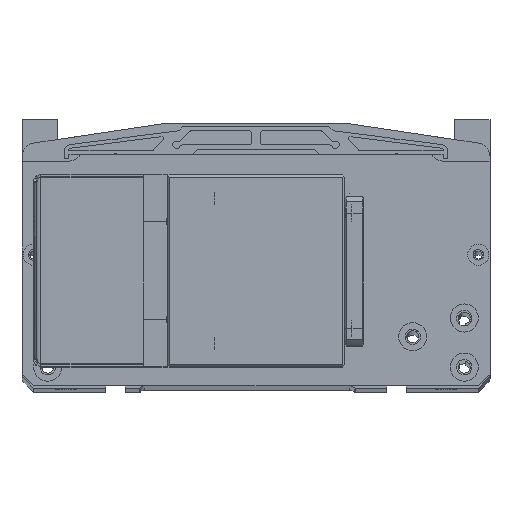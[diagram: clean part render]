
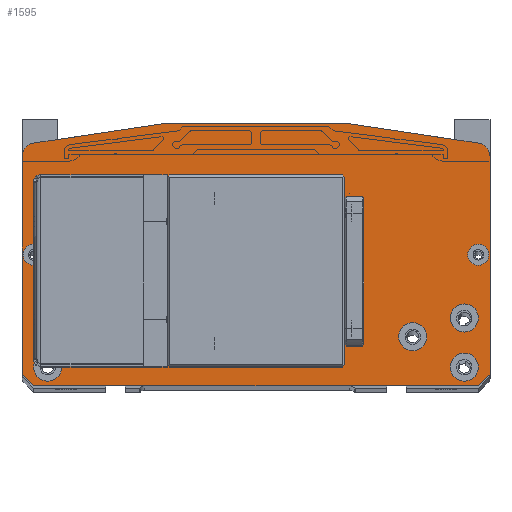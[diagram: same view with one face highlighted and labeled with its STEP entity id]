
A CAD part, top view. The second image highlights one B-rep face of the part: STEP entity #1595.
In plain terms, the highlighted planar face has unit normal (0, 0, 1).
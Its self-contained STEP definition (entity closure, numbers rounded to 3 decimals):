
#1595=ADVANCED_FACE('',(#5962,#5963,#5964,#5965,#5966,#5967,#5968,#5969,
#5970,#5971,#5972,#5973,#5974),#2609,.F.);
#2609=PLANE('',#18369);
#3078=LINE('',#25504,#4520);
#3079=LINE('',#25507,#4521);
#3080=LINE('',#25509,#4522);
#3081=LINE('',#25511,#4523);
#3082=LINE('',#25515,#4524);
#3083=LINE('',#25517,#4525);
#3084=LINE('',#25519,#4526);
#3085=LINE('',#25523,#4527);
#3086=LINE('',#25524,#4528);
#3087=LINE('',#25527,#4529);
#3088=LINE('',#25529,#4530);
#3089=LINE('',#25531,#4531);
#3090=LINE('',#25532,#4532);
#3091=LINE('',#25535,#4533);
#3092=LINE('',#25537,#4534);
#3093=LINE('',#25539,#4535);
#4520=VECTOR('',#20273,1.);
#4521=VECTOR('',#20274,1.);
#4522=VECTOR('',#20275,1.);
#4523=VECTOR('',#20276,1.);
#4524=VECTOR('',#20279,1.);
#4525=VECTOR('',#20280,1.);
#4526=VECTOR('',#20281,1.);
#4527=VECTOR('',#20284,1.);
#4528=VECTOR('',#20285,1.);
#4529=VECTOR('',#20286,1.);
#4530=VECTOR('',#20287,1.);
#4531=VECTOR('',#20288,1.);
#4532=VECTOR('',#20289,1.);
#4533=VECTOR('',#20290,1.);
#4534=VECTOR('',#20291,1.);
#4535=VECTOR('',#20292,1.);
#5962=FACE_BOUND('',#6668,.T.);
#5963=FACE_BOUND('',#6669,.T.);
#5964=FACE_BOUND('',#6670,.T.);
#5965=FACE_BOUND('',#6671,.T.);
#5966=FACE_BOUND('',#6672,.T.);
#5967=FACE_BOUND('',#6673,.T.);
#5968=FACE_BOUND('',#6674,.T.);
#5969=FACE_BOUND('',#6675,.T.);
#5970=FACE_BOUND('',#6676,.T.);
#5971=FACE_BOUND('',#6677,.T.);
#5972=FACE_BOUND('',#6678,.T.);
#5973=FACE_BOUND('',#6679,.T.);
#5974=FACE_BOUND('',#6680,.T.);
#6668=EDGE_LOOP('',(#8070));
#6669=EDGE_LOOP('',(#8071));
#6670=EDGE_LOOP('',(#8072));
#6671=EDGE_LOOP('',(#8073));
#6672=EDGE_LOOP('',(#8074));
#6673=EDGE_LOOP('',(#8075));
#6674=EDGE_LOOP('',(#8076));
#6675=EDGE_LOOP('',(#8077));
#6676=EDGE_LOOP('',(#8078));
#6677=EDGE_LOOP('',(#8079));
#6678=EDGE_LOOP('',(#8080,#8081,#8082,#8083,#8084,#8085,#8086,#8087,#8088,
#8089));
#6679=EDGE_LOOP('',(#8090,#8091,#8092,#8093));
#6680=EDGE_LOOP('',(#8094,#8095,#8096,#8097));
#8070=ORIENTED_EDGE('',*,*,#14924,.T.);
#8071=ORIENTED_EDGE('',*,*,#14925,.T.);
#8072=ORIENTED_EDGE('',*,*,#14926,.T.);
#8073=ORIENTED_EDGE('',*,*,#14927,.T.);
#8074=ORIENTED_EDGE('',*,*,#14928,.T.);
#8075=ORIENTED_EDGE('',*,*,#14929,.T.);
#8076=ORIENTED_EDGE('',*,*,#14930,.T.);
#8077=ORIENTED_EDGE('',*,*,#14931,.T.);
#8078=ORIENTED_EDGE('',*,*,#14932,.T.);
#8079=ORIENTED_EDGE('',*,*,#14933,.T.);
#8080=ORIENTED_EDGE('',*,*,#14934,.F.);
#8081=ORIENTED_EDGE('',*,*,#14935,.T.);
#8082=ORIENTED_EDGE('',*,*,#14936,.F.);
#8083=ORIENTED_EDGE('',*,*,#14937,.T.);
#8084=ORIENTED_EDGE('',*,*,#14938,.F.);
#8085=ORIENTED_EDGE('',*,*,#14939,.F.);
#8086=ORIENTED_EDGE('',*,*,#14940,.T.);
#8087=ORIENTED_EDGE('',*,*,#14941,.F.);
#8088=ORIENTED_EDGE('',*,*,#14942,.F.);
#8089=ORIENTED_EDGE('',*,*,#14943,.T.);
#8090=ORIENTED_EDGE('',*,*,#14944,.T.);
#8091=ORIENTED_EDGE('',*,*,#14945,.T.);
#8092=ORIENTED_EDGE('',*,*,#14946,.T.);
#8093=ORIENTED_EDGE('',*,*,#14947,.T.);
#8094=ORIENTED_EDGE('',*,*,#14948,.F.);
#8095=ORIENTED_EDGE('',*,*,#14949,.F.);
#8096=ORIENTED_EDGE('',*,*,#14950,.T.);
#8097=ORIENTED_EDGE('',*,*,#14951,.T.);
#13170=VERTEX_POINT('',#25485);
#13171=VERTEX_POINT('',#25487);
#13172=VERTEX_POINT('',#25489);
#13173=VERTEX_POINT('',#25491);
#13174=VERTEX_POINT('',#25493);
#13175=VERTEX_POINT('',#25495);
#13176=VERTEX_POINT('',#25497);
#13177=VERTEX_POINT('',#25499);
#13178=VERTEX_POINT('',#25501);
#13179=VERTEX_POINT('',#25503);
#13180=VERTEX_POINT('',#25505);
#13181=VERTEX_POINT('',#25506);
#13182=VERTEX_POINT('',#25508);
#13183=VERTEX_POINT('',#25510);
#13184=VERTEX_POINT('',#25512);
#13185=VERTEX_POINT('',#25514);
#13186=VERTEX_POINT('',#25516);
#13187=VERTEX_POINT('',#25518);
#13188=VERTEX_POINT('',#25520);
#13189=VERTEX_POINT('',#25522);
#13190=VERTEX_POINT('',#25525);
#13191=VERTEX_POINT('',#25526);
#13192=VERTEX_POINT('',#25528);
#13193=VERTEX_POINT('',#25530);
#13194=VERTEX_POINT('',#25533);
#13195=VERTEX_POINT('',#25534);
#13196=VERTEX_POINT('',#25536);
#13197=VERTEX_POINT('',#25538);
#14924=EDGE_CURVE('',#13170,#13170,#17474,.T.);
#14925=EDGE_CURVE('',#13171,#13171,#17475,.T.);
#14926=EDGE_CURVE('',#13172,#13172,#17476,.T.);
#14927=EDGE_CURVE('',#13173,#13173,#17477,.T.);
#14928=EDGE_CURVE('',#13174,#13174,#17478,.T.);
#14929=EDGE_CURVE('',#13175,#13175,#17479,.T.);
#14930=EDGE_CURVE('',#13176,#13176,#17480,.T.);
#14931=EDGE_CURVE('',#13177,#13177,#17481,.T.);
#14932=EDGE_CURVE('',#13178,#13178,#17482,.T.);
#14933=EDGE_CURVE('',#13179,#13179,#17483,.T.);
#14934=EDGE_CURVE('',#13180,#13181,#3078,.T.);
#14935=EDGE_CURVE('',#13180,#13182,#3079,.T.);
#14936=EDGE_CURVE('',#13183,#13182,#3080,.T.);
#14937=EDGE_CURVE('',#13183,#13184,#3081,.T.);
#14938=EDGE_CURVE('',#13185,#13184,#17484,.T.);
#14939=EDGE_CURVE('',#13186,#13185,#3082,.T.);
#14940=EDGE_CURVE('',#13186,#13187,#3083,.T.);
#14941=EDGE_CURVE('',#13188,#13187,#3084,.T.);
#14942=EDGE_CURVE('',#13189,#13188,#17485,.T.);
#14943=EDGE_CURVE('',#13189,#13181,#3085,.T.);
#14944=EDGE_CURVE('',#13190,#13191,#3086,.T.);
#14945=EDGE_CURVE('',#13191,#13192,#3087,.T.);
#14946=EDGE_CURVE('',#13192,#13193,#3088,.T.);
#14947=EDGE_CURVE('',#13193,#13190,#3089,.T.);
#14948=EDGE_CURVE('',#13194,#13195,#3090,.T.);
#14949=EDGE_CURVE('',#13196,#13194,#3091,.T.);
#14950=EDGE_CURVE('',#13196,#13197,#3092,.T.);
#14951=EDGE_CURVE('',#13197,#13195,#3093,.T.);
#17474=CIRCLE('',#18357,1.65);
#17475=CIRCLE('',#18358,1.65);
#17476=CIRCLE('',#18359,4.5);
#17477=CIRCLE('',#18360,4.5);
#17478=CIRCLE('',#18361,6.);
#17479=CIRCLE('',#18362,6.);
#17480=CIRCLE('',#18363,6.);
#17481=CIRCLE('',#18364,6.);
#17482=CIRCLE('',#18365,6.);
#17483=CIRCLE('',#18366,6.);
#17484=CIRCLE('',#18367,6.);
#17485=CIRCLE('',#18368,6.);
#18357=AXIS2_PLACEMENT_3D('',#25484,#20253,#20254);
#18358=AXIS2_PLACEMENT_3D('',#25486,#20255,#20256);
#18359=AXIS2_PLACEMENT_3D('',#25488,#20257,#20258);
#18360=AXIS2_PLACEMENT_3D('',#25490,#20259,#20260);
#18361=AXIS2_PLACEMENT_3D('',#25492,#20261,#20262);
#18362=AXIS2_PLACEMENT_3D('',#25494,#20263,#20264);
#18363=AXIS2_PLACEMENT_3D('',#25496,#20265,#20266);
#18364=AXIS2_PLACEMENT_3D('',#25498,#20267,#20268);
#18365=AXIS2_PLACEMENT_3D('',#25500,#20269,#20270);
#18366=AXIS2_PLACEMENT_3D('',#25502,#20271,#20272);
#18367=AXIS2_PLACEMENT_3D('',#25513,#20277,#20278);
#18368=AXIS2_PLACEMENT_3D('',#25521,#20282,#20283);
#18369=AXIS2_PLACEMENT_3D('',#25540,#20293,#20294);
#20253=DIRECTION('',(0.,0.,-1.));
#20254=DIRECTION('',(1.,0.,0.));
#20255=DIRECTION('',(0.,0.,-1.));
#20256=DIRECTION('',(1.,0.,0.));
#20257=DIRECTION('',(0.,0.,-1.));
#20258=DIRECTION('',(1.,0.,0.));
#20259=DIRECTION('',(0.,0.,-1.));
#20260=DIRECTION('',(1.,0.,0.));
#20261=DIRECTION('',(0.,0.,-1.));
#20262=DIRECTION('',(1.,0.,0.));
#20263=DIRECTION('',(0.,0.,-1.));
#20264=DIRECTION('',(1.,0.,0.));
#20265=DIRECTION('',(0.,0.,-1.));
#20266=DIRECTION('',(1.,0.,0.));
#20267=DIRECTION('',(0.,0.,-1.));
#20268=DIRECTION('',(1.,0.,0.));
#20269=DIRECTION('',(0.,0.,-1.));
#20270=DIRECTION('',(1.,0.,0.));
#20271=DIRECTION('',(0.,0.,-1.));
#20272=DIRECTION('',(1.,0.,0.));
#20273=DIRECTION('',(-0.707,0.707,0.));
#20274=DIRECTION('',(1.,0.,0.));
#20275=DIRECTION('',(-0.707,-0.707,0.));
#20276=DIRECTION('',(0.,1.,0.));
#20277=DIRECTION('',(0.,0.,-1.));
#20278=DIRECTION('',(0.148,0.989,0.));
#20279=DIRECTION('',(0.989,-0.148,0.));
#20280=DIRECTION('',(-1.,0.,0.));
#20281=DIRECTION('',(0.989,0.148,0.));
#20282=DIRECTION('',(0.,0.,-1.));
#20283=DIRECTION('',(-1.,0.,0.));
#20284=DIRECTION('',(0.,-1.,0.));
#20285=DIRECTION('',(0.,1.,0.));
#20286=DIRECTION('',(1.,0.,0.));
#20287=DIRECTION('',(0.,-1.,0.));
#20288=DIRECTION('',(-1.,0.,0.));
#20289=DIRECTION('',(0.,1.,0.));
#20290=DIRECTION('',(1.,0.,0.));
#20291=DIRECTION('',(0.,1.,0.));
#20292=DIRECTION('',(1.,0.,0.));
#20293=DIRECTION('',(0.,0.,-1.));
#20294=DIRECTION('',(-1.,0.,0.));
#25484=CARTESIAN_POINT('',(-42.,33.,463.));
#25485=CARTESIAN_POINT('',(-40.35,33.,463.));
#25486=CARTESIAN_POINT('',(-42.,69.,463.));
#25487=CARTESIAN_POINT('',(-40.35,69.,463.));
#25488=CARTESIAN_POINT('',(-95.,58.,463.));
#25489=CARTESIAN_POINT('',(-90.5,58.,463.));
#25490=CARTESIAN_POINT('',(95.,58.,463.));
#25491=CARTESIAN_POINT('',(99.5,58.,463.));
#25492=CARTESIAN_POINT('',(-67.,23.,463.));
#25493=CARTESIAN_POINT('',(-61.,23.,463.));
#25494=CARTESIAN_POINT('',(67.,23.,463.));
#25495=CARTESIAN_POINT('',(73.,23.,463.));
#25496=CARTESIAN_POINT('',(-89.,31.,463.));
#25497=CARTESIAN_POINT('',(-83.,31.,463.));
#25498=CARTESIAN_POINT('',(89.,31.,463.));
#25499=CARTESIAN_POINT('',(95.,31.,463.));
#25500=CARTESIAN_POINT('',(-89.,10.,463.));
#25501=CARTESIAN_POINT('',(-83.,10.,463.));
#25502=CARTESIAN_POINT('',(89.,10.,463.));
#25503=CARTESIAN_POINT('',(95.,10.,463.));
#25504=CARTESIAN_POINT('',(-95.,2.,463.));
#25505=CARTESIAN_POINT('',(-95.,2.,463.));
#25506=CARTESIAN_POINT('',(-100.,7.,463.));
#25507=CARTESIAN_POINT('',(67.5,2.,463.));
#25508=CARTESIAN_POINT('',(95.,2.,463.));
#25509=CARTESIAN_POINT('',(100.,7.,463.));
#25510=CARTESIAN_POINT('',(100.,7.,463.));
#25511=CARTESIAN_POINT('',(100.,7.,463.));
#25512=CARTESIAN_POINT('',(100.,99.833,463.));
#25513=CARTESIAN_POINT('',(94.,99.833,463.));
#25514=CARTESIAN_POINT('',(94.89,105.766,463.));
#25515=CARTESIAN_POINT('',(40.,114.,463.));
#25516=CARTESIAN_POINT('',(40.,114.,463.));
#25517=CARTESIAN_POINT('',(40.,114.,463.));
#25518=CARTESIAN_POINT('',(-40.,114.,463.));
#25519=CARTESIAN_POINT('',(-94.89,105.766,463.));
#25520=CARTESIAN_POINT('',(-94.89,105.766,463.));
#25521=CARTESIAN_POINT('',(-94.,99.833,463.));
#25522=CARTESIAN_POINT('',(-100.,99.833,463.));
#25523=CARTESIAN_POINT('',(-100.,99.833,463.));
#25524=CARTESIAN_POINT('',(-37.,91.,463.));
#25525=CARTESIAN_POINT('',(-37.,11.,463.));
#25526=CARTESIAN_POINT('',(-37.,91.,463.));
#25527=CARTESIAN_POINT('',(37.,91.,463.));
#25528=CARTESIAN_POINT('',(37.,91.,463.));
#25529=CARTESIAN_POINT('',(37.,11.,463.));
#25530=CARTESIAN_POINT('',(37.,11.,463.));
#25531=CARTESIAN_POINT('',(-37.,11.,463.));
#25532=CARTESIAN_POINT('',(45.5,80.466,463.));
#25533=CARTESIAN_POINT('',(45.5,21.534,463.));
#25534=CARTESIAN_POINT('',(45.5,80.466,463.));
#25535=CARTESIAN_POINT('',(45.5,21.534,463.));
#25536=CARTESIAN_POINT('',(38.5,21.534,463.));
#25537=CARTESIAN_POINT('',(38.5,80.466,463.));
#25538=CARTESIAN_POINT('',(38.5,80.466,463.));
#25539=CARTESIAN_POINT('',(45.5,80.466,463.));
#25540=CARTESIAN_POINT('',(0.,2.,463.));
